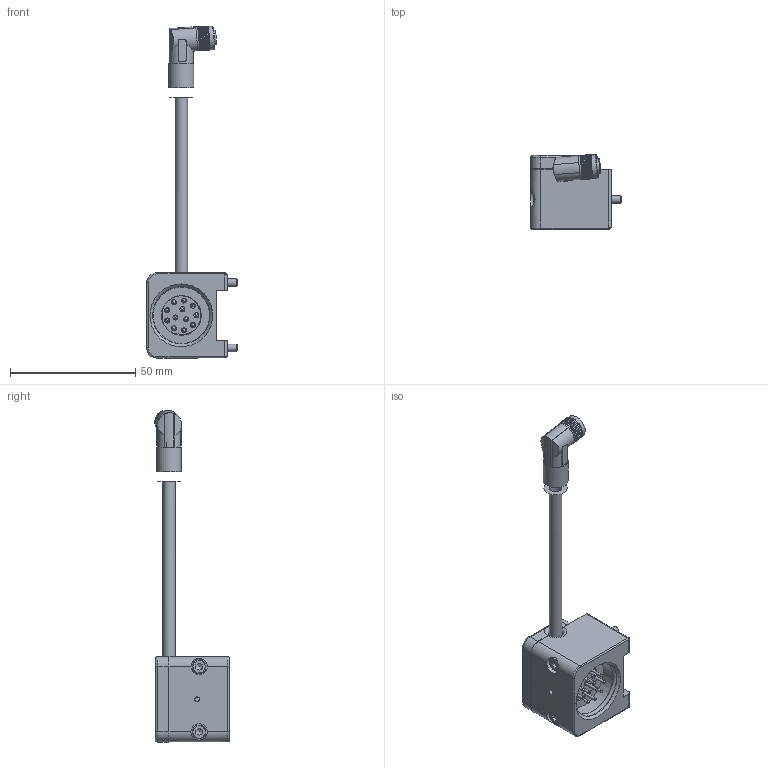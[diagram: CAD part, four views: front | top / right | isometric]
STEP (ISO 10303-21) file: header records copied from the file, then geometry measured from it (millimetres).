
FILE_DESCRIPTION(/* description */ (''),/* implementation_level */ '2;1');
FILE_NAME(/* name */ 'G-SEK100-O-1E12-300-M8_.stp',/* time_stamp */ '2025-11-25T10:46:25+01:00',/* author */ ('ysplieth'),/* organization */ (''),/* preprocessor_version */ 'ST-DEVELOPER v20.1',/* originating_system */ 'Autodesk Inventor 2026',/* authorisation */ '');
FILE_SCHEMA (('AUTOMOTIVE_DESIGN { 1 0 10303 214 3 1 1 }'));
Length unit declared in the file: millimetre
Products named in the file (1): G-SEK100-O-1E12-300-M8
Bounding box: 36 x 29.66 x 132.33 mm (x, y, z)
Volume: 26655.9 mm3; surface area: 15767.5 mm2
Topology: 2 solids, 12 shells, 757 faces, 1945 edges, 1259 vertices
Faces by surface type: plane 362, cylinder 294, cone 47, torus 24, bspline 18, sphere 12
Full cylindrical faces by diameter (mm): 0.7 x8, 1 x12, 1.6 x12, 2 x16, 2.013 x4, 2.5 x4, 2.9 x4, 3 x2, 3.4 x2, 4.5 x4, 5 x2, 5.5 x4, 5.8 x2, 6.5 x2, 7.75 x2, 9.35 x1, 10 x1, 15.9 x1, 17 x1, 17.1 x1, 18 x1, 23 x2, 25.5 x2
Entity records: 25818 total; most frequent: CARTESIAN_POINT 6263, DIRECTION 4007, ORIENTED_EDGE 3838, EDGE_CURVE 1919, AXIS2_PLACEMENT_3D 1521, VERTEX_POINT 1259, LINE 965, VECTOR 965
